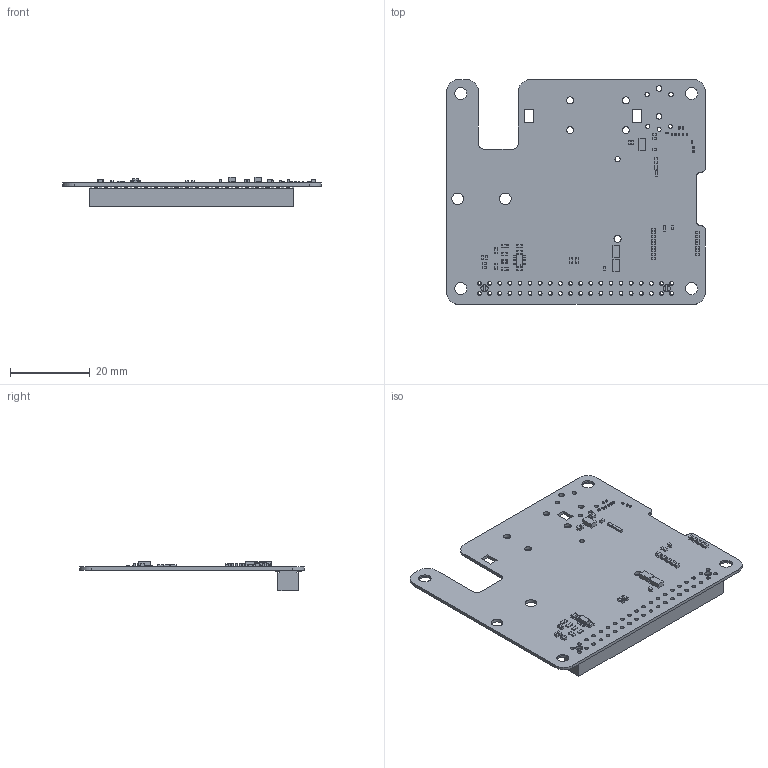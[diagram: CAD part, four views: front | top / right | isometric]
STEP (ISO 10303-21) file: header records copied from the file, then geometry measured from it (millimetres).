
FILE_DESCRIPTION(('Open CASCADE Model'),'2;1');
FILE_NAME('Open CASCADE Shape Model','2026-04-02T13:58:30',('Author'),( 'Open CASCADE'),'Open CASCADE STEP processor 6.8','Open CASCADE 6.8' ,'Unknown');
FILE_SCHEMA(('AUTOMOTIVE_DESIGN { 1 0 10303 214 1 1 1 1 }'));
Length unit declared in the file: millimetre
Products named in the file (82): PCB; Board; U2; 1249295808; Extruded; R260; 1249295536; R29; 1249295672; R21; R22; R3; R4; R5; R7; R13; R14; R15; C19; User_Library-Chip_Cap_MLCC_0201_(0603); R17; R18; R32; R25; R26; R27; R9; R11; C20; C21; C22; C23; C26; C27; C29; C30; P5; Header-SMD-F-2.54X40; R380; RESC1608(0603)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
Assembly tree (145 placements, depth 4):
  PCB
    Board
    U2
      1249295808
        Extruded
    R260
      1249295536
        Extruded
    R29
      1249295672
        Extruded
    R21
      1249295672
        Extruded
    R22
      1249295672
        Extruded
    R3
      1249295672
        Extruded
    R4
      1249295672
        Extruded
    R5
      1249295672
        Extruded
    R7
      1249295672
        Extruded
    R13
      1249295536
        Extruded
    R14
      1249295672
        Extruded
    R15
      1249295672
        Extruded
    C19
      User_Library-Chip_Cap_MLCC_0201_(0603)
    R17
      1249295672
        Extruded
    R18
      1249295672
        Extruded
    R32
      1249295536
        Extruded
    R25
      1249295672
        Extruded
    R26
      1249295536
        Extruded
    R27
      1249295672
        Extruded
    R9
      1249295672
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Bounding box: 65 x 56.5 x 7.45 mm (x, y, z)
Volume: 3504.8 mm3; surface area: 9775.4 mm2
Topology: 78 solids, 78 shells, 2681 faces, 6755 edges, 4130 vertices
Faces by surface type: plane 1796, cylinder 709, bspline 88, sphere 88
Full cylindrical faces by diameter (mm): 0.95 x40, 1 x3, 1.1 x2, 1.3 x1, 1.397 x2, 1.75 x4, 1.8 x3, 2.9 x2
Entity records: 153785 total; most frequent: CARTESIAN_POINT 44576, DIRECTION 15745, LINE 10505, VECTOR 10505, ORIENTED_EDGE 8558, PCURVE 8558, DEFINITIONAL_REPRESENTATION 8558, PRESENTATION_STYLE_ASSIGNMENT 4537
